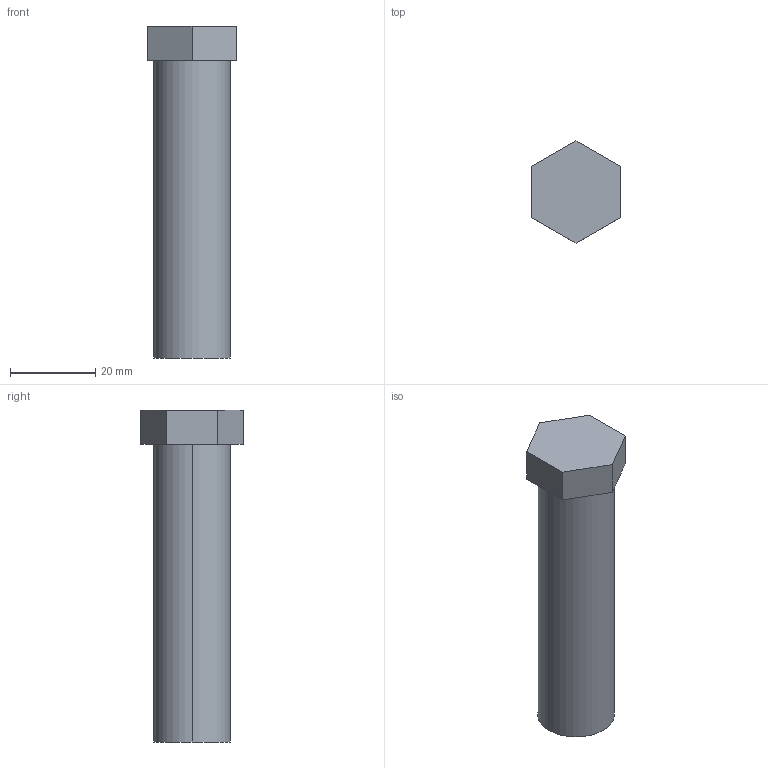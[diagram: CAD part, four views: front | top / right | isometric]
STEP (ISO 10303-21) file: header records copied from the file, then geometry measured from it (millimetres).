
FILE_DESCRIPTION (( 'STEP AP214' ), '1' );
FILE_NAME ('pin.STEP', '2018-04-22T04:25:28', ( '' ), ( '' ), 'SwSTEP 2.0', 'SolidWorks 2018', '' );
FILE_SCHEMA (( 'AUTOMOTIVE_DESIGN' ));
Length unit declared in the file: millimetre
Products named in the file (1): pin
Bounding box: 20.78 x 24 x 78 mm (x, y, z)
Volume: 20805.8 mm3; surface area: 5282.7 mm2
Topology: 1 solids, 1 shells, 11 faces, 24 edges, 16 vertices
Faces by surface type: plane 9, cylinder 2
Entity records: 336 total; most frequent: DIRECTION 52, CARTESIAN_POINT 52, ORIENTED_EDGE 48, EDGE_CURVE 24, LINE 20, VECTOR 20, AXIS2_PLACEMENT_3D 16, VERTEX_POINT 16
